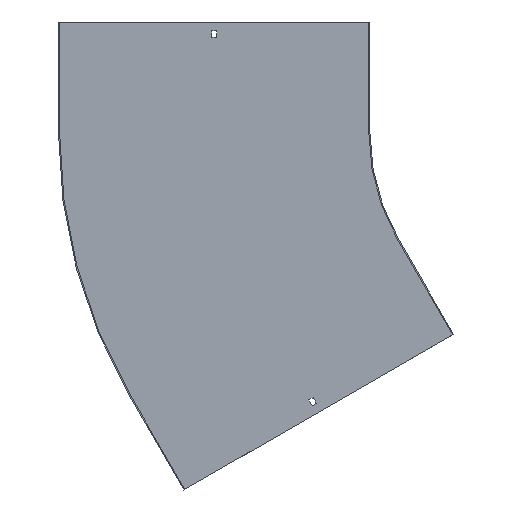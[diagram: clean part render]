
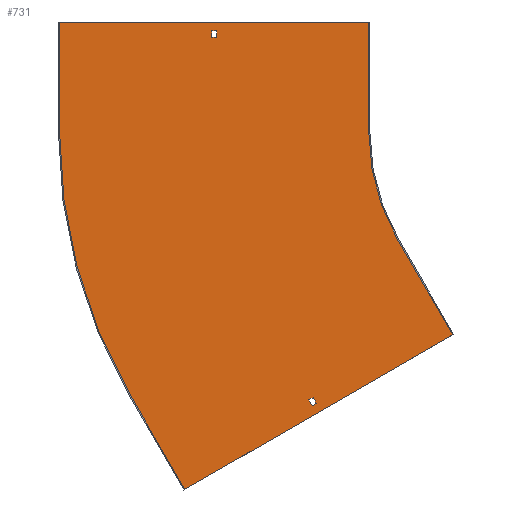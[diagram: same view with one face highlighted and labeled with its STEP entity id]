
A CAD part, front view. The second image highlights one B-rep face of the part: STEP entity #731.
In plain terms, the highlighted planar face has unit normal (0, -1, 0).
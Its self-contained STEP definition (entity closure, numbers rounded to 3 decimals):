
#9 = CARTESIAN_POINT ( 'NONE',  ( -539.878, -1.5, -484.904 ) ) ;
#10 = DIRECTION ( 'NONE',  ( 0., -1., 0. ) ) ;
#12 = VERTEX_POINT ( 'NONE', #695 ) ;
#16 = VERTEX_POINT ( 'NONE', #154 ) ;
#17 = EDGE_CURVE ( 'NONE', #76, #16, #633, .T. ) ;
#24 = EDGE_CURVE ( 'NONE', #593, #750, #299, .T. ) ;
#36 = LINE ( 'NONE', #40, #373 ) ;
#40 = CARTESIAN_POINT ( 'NONE',  ( -539.878, -1.5, -484.904 ) ) ;
#49 = VECTOR ( 'NONE', #813, 1000. ) ;
#53 = LINE ( 'NONE', #643, #385 ) ;
#61 = DIRECTION ( 'NONE',  ( -0.866, 0., -0.5 ) ) ;
#68 = ORIENTED_EDGE ( 'NONE', *, *, #651, .F. ) ;
#76 = VERTEX_POINT ( 'NONE', #301 ) ;
#79 = EDGE_CURVE ( 'NONE', #561, #593, #690, .T. ) ;
#80 = VERTEX_POINT ( 'NONE', #168 ) ;
#82 = LINE ( 'NONE', #220, #427 ) ;
#100 = CIRCLE ( 'NONE', #413, 290. ) ;
#143 = VECTOR ( 'NONE', #61, 1000. ) ;
#145 = EDGE_CURVE ( 'NONE', #80, #431, #584, .T. ) ;
#154 = CARTESIAN_POINT ( 'NONE',  ( -710., -1.5, 150. ) ) ;
#155 = EDGE_CURVE ( 'NONE', #177, #585, #659, .T. ) ;
#168 = CARTESIAN_POINT ( 'NONE',  ( -361.198, -1.5, -367.887 ) ) ;
#169 = EDGE_LOOP ( 'NONE', ( #800, #654, #537, #573 ) ) ;
#172 = EDGE_CURVE ( 'NONE', #493, #615, #579, .T. ) ;
#176 = CARTESIAN_POINT ( 'NONE',  ( -710., -1.5, 0. ) ) ;
#177 = VERTEX_POINT ( 'NONE', #793 ) ;
#178 = CARTESIAN_POINT ( 'NONE',  ( -503.25, -1.5, 129. ) ) ;
#182 = CARTESIAN_POINT ( 'NONE',  ( -251.147, -1.5, -145. ) ) ;
#194 = EDGE_LOOP ( 'NONE', ( #274, #850, #68, #648, #350, #200, #253, #798 ) ) ;
#197 = LINE ( 'NONE', #473, #501 ) ;
#199 = CARTESIAN_POINT ( 'NONE',  ( 0., -1.5, 0. ) ) ;
#200 = ORIENTED_EDGE ( 'NONE', *, *, #280, .F. ) ;
#203 = DIRECTION ( 'NONE',  ( 0., 0., -1. ) ) ;
#209 = EDGE_CURVE ( 'NONE', #750, #12, #53, .T. ) ;
#211 = CARTESIAN_POINT ( 'NONE',  ( -503.25, -1.5, 138. ) ) ;
#216 = LINE ( 'NONE', #363, #401 ) ;
#220 = CARTESIAN_POINT ( 'NONE',  ( 64.5, -1.5, -111.717 ) ) ;
#222 = CARTESIAN_POINT ( 'NONE',  ( -496.75, -1.5, 138. ) ) ;
#228 = DIRECTION ( 'NONE',  ( 0., -1., 0. ) ) ;
#236 = CARTESIAN_POINT ( 'NONE',  ( -503.25, -1.5, 0. ) ) ;
#237 = ORIENTED_EDGE ( 'NONE', *, *, #795, .T. ) ;
#241 = CARTESIAN_POINT ( 'NONE',  ( 0., -1.5, 138. ) ) ;
#243 = VECTOR ( 'NONE', #455, 1000. ) ;
#253 = ORIENTED_EDGE ( 'NONE', *, *, #268, .F. ) ;
#261 = CARTESIAN_POINT ( 'NONE',  ( -174.848, -1.5, -274.154 ) ) ;
#265 = DIRECTION ( 'NONE',  ( 1., 0., 0. ) ) ;
#268 = EDGE_CURVE ( 'NONE', #753, #468, #100, .T. ) ;
#274 = ORIENTED_EDGE ( 'NONE', *, *, #639, .F. ) ;
#280 = EDGE_CURVE ( 'NONE', #468, #177, #749, .T. ) ;
#296 = ORIENTED_EDGE ( 'NONE', *, *, #79, .T. ) ;
#298 = FACE_OUTER_BOUND ( 'NONE', #194, .T. ) ;
#299 = LINE ( 'NONE', #241, #719 ) ;
#301 = CARTESIAN_POINT ( 'NONE',  ( -710., -1.5, 0. ) ) ;
#305 = CARTESIAN_POINT ( 'NONE',  ( -290., -1.5, 0. ) ) ;
#321 = DIRECTION ( 'NONE',  ( 0., 0., -1. ) ) ;
#331 = VECTOR ( 'NONE', #807, 1000. ) ;
#339 = EDGE_CURVE ( 'NONE', #443, #753, #216, .T. ) ;
#345 = CIRCLE ( 'NONE', #595, 710. ) ;
#347 = CARTESIAN_POINT ( 'NONE',  ( -251.147, -1.5, -145. ) ) ;
#350 = ORIENTED_EDGE ( 'NONE', *, *, #155, .F. ) ;
#363 = CARTESIAN_POINT ( 'NONE',  ( -290., -1.5, 150. ) ) ;
#366 = FACE_BOUND ( 'NONE', #169, .T. ) ;
#371 = VECTOR ( 'NONE', #653, 1000. ) ;
#373 = VECTOR ( 'NONE', #699, 1000. ) ;
#385 = VECTOR ( 'NONE', #321, 1000. ) ;
#388 = CARTESIAN_POINT ( 'NONE',  ( -430.198, -1.5, -248.375 ) ) ;
#400 = VECTOR ( 'NONE', #765, 1000. ) ;
#401 = VECTOR ( 'NONE', #564, 1000. ) ;
#413 = AXIS2_PLACEMENT_3D ( 'NONE', #199, #10, #739 ) ;
#421 = CARTESIAN_POINT ( 'NONE',  ( -365.698, -1.5, -360.092 ) ) ;
#424 = DIRECTION ( 'NONE',  ( 0., 0., -1. ) ) ;
#427 = VECTOR ( 'NONE', #492, 1000. ) ;
#428 = AXIS2_PLACEMENT_3D ( 'NONE', #631, #228, #424 ) ;
#431 = VERTEX_POINT ( 'NONE', #421 ) ;
#432 = EDGE_CURVE ( 'NONE', #431, #493, #82, .T. ) ;
#443 = VERTEX_POINT ( 'NONE', #851 ) ;
#448 = CARTESIAN_POINT ( 'NONE',  ( -435.827, -1.5, -251.625 ) ) ;
#455 = DIRECTION ( 'NONE',  ( 0.866, 0., 0.5 ) ) ;
#468 = VERTEX_POINT ( 'NONE', #182 ) ;
#473 = CARTESIAN_POINT ( 'NONE',  ( -711.5, -1.5, 150. ) ) ;
#492 = DIRECTION ( 'NONE',  ( -0.866, 0., -0.5 ) ) ;
#493 = VERTEX_POINT ( 'NONE', #658 ) ;
#497 = EDGE_CURVE ( 'NONE', #615, #80, #848, .T. ) ;
#498 = VECTOR ( 'NONE', #768, 1000. ) ;
#501 = VECTOR ( 'NONE', #265, 1000. ) ;
#502 = CARTESIAN_POINT ( 'NONE',  ( 0., -1.5, 129. ) ) ;
#504 = DIRECTION ( 'NONE',  ( 1., 0., 0. ) ) ;
#512 = ORIENTED_EDGE ( 'NONE', *, *, #209, .T. ) ;
#537 = ORIENTED_EDGE ( 'NONE', *, *, #172, .F. ) ;
#538 = DIRECTION ( 'NONE',  ( 0., 1., 0. ) ) ;
#561 = VERTEX_POINT ( 'NONE', #178 ) ;
#563 = LINE ( 'NONE', #502, #49 ) ;
#564 = DIRECTION ( 'NONE',  ( 0., 0., -1. ) ) ;
#573 = ORIENTED_EDGE ( 'NONE', *, *, #432, .F. ) ;
#579 = LINE ( 'NONE', #448, #371 ) ;
#584 = LINE ( 'NONE', #388, #759 ) ;
#585 = VERTEX_POINT ( 'NONE', #9 ) ;
#593 = VERTEX_POINT ( 'NONE', #211 ) ;
#595 = AXIS2_PLACEMENT_3D ( 'NONE', #604, #538, #203 ) ;
#604 = CARTESIAN_POINT ( 'NONE',  ( 0., -1.5, 0. ) ) ;
#615 = VERTEX_POINT ( 'NONE', #799 ) ;
#631 = CARTESIAN_POINT ( 'NONE',  ( 0., -1.5, 0. ) ) ;
#633 = LINE ( 'NONE', #176, #498 ) ;
#639 = EDGE_CURVE ( 'NONE', #16, #443, #197, .T. ) ;
#640 = VERTEX_POINT ( 'NONE', #730 ) ;
#643 = CARTESIAN_POINT ( 'NONE',  ( -496.75, -1.5, 0. ) ) ;
#644 = EDGE_LOOP ( 'NONE', ( #678, #512, #237, #296 ) ) ;
#648 = ORIENTED_EDGE ( 'NONE', *, *, #805, .F. ) ;
#651 = EDGE_CURVE ( 'NONE', #640, #76, #345, .T. ) ;
#653 = DIRECTION ( 'NONE',  ( 0.5, 0., -0.866 ) ) ;
#654 = ORIENTED_EDGE ( 'NONE', *, *, #497, .F. ) ;
#658 = CARTESIAN_POINT ( 'NONE',  ( -371.327, -1.5, -363.342 ) ) ;
#659 = LINE ( 'NONE', #261, #143 ) ;
#678 = ORIENTED_EDGE ( 'NONE', *, *, #24, .T. ) ;
#690 = LINE ( 'NONE', #236, #400 ) ;
#695 = CARTESIAN_POINT ( 'NONE',  ( -496.75, -1.5, 129. ) ) ;
#699 = DIRECTION ( 'NONE',  ( -0.5, 0., 0.866 ) ) ;
#719 = VECTOR ( 'NONE', #504, 1000. ) ;
#730 = CARTESIAN_POINT ( 'NONE',  ( -614.878, -1.5, -355. ) ) ;
#731 = ADVANCED_FACE ( 'NONE', ( #366, #298, #822 ), #757, .T. ) ;
#739 = DIRECTION ( 'NONE',  ( 0., 0., -1. ) ) ;
#749 = LINE ( 'NONE', #347, #331 ) ;
#750 = VERTEX_POINT ( 'NONE', #222 ) ;
#753 = VERTEX_POINT ( 'NONE', #305 ) ;
#757 = PLANE ( 'NONE',  #428 ) ;
#759 = VECTOR ( 'NONE', #843, 1000. ) ;
#765 = DIRECTION ( 'NONE',  ( 0., 0., 1. ) ) ;
#768 = DIRECTION ( 'NONE',  ( 0., 0., 1. ) ) ;
#793 = CARTESIAN_POINT ( 'NONE',  ( -176.147, -1.5, -274.904 ) ) ;
#795 = EDGE_CURVE ( 'NONE', #12, #561, #563, .T. ) ;
#798 = ORIENTED_EDGE ( 'NONE', *, *, #339, .F. ) ;
#799 = CARTESIAN_POINT ( 'NONE',  ( -366.827, -1.5, -371.137 ) ) ;
#800 = ORIENTED_EDGE ( 'NONE', *, *, #145, .F. ) ;
#805 = EDGE_CURVE ( 'NONE', #585, #640, #36, .T. ) ;
#807 = DIRECTION ( 'NONE',  ( 0.5, 0., -0.866 ) ) ;
#813 = DIRECTION ( 'NONE',  ( -1., 0., 0. ) ) ;
#822 = FACE_BOUND ( 'NONE', #644, .T. ) ;
#837 = CARTESIAN_POINT ( 'NONE',  ( 69., -1.5, -119.512 ) ) ;
#843 = DIRECTION ( 'NONE',  ( -0.5, 0., 0.866 ) ) ;
#848 = LINE ( 'NONE', #837, #243 ) ;
#850 = ORIENTED_EDGE ( 'NONE', *, *, #17, .F. ) ;
#851 = CARTESIAN_POINT ( 'NONE',  ( -290., -1.5, 150. ) ) ;
